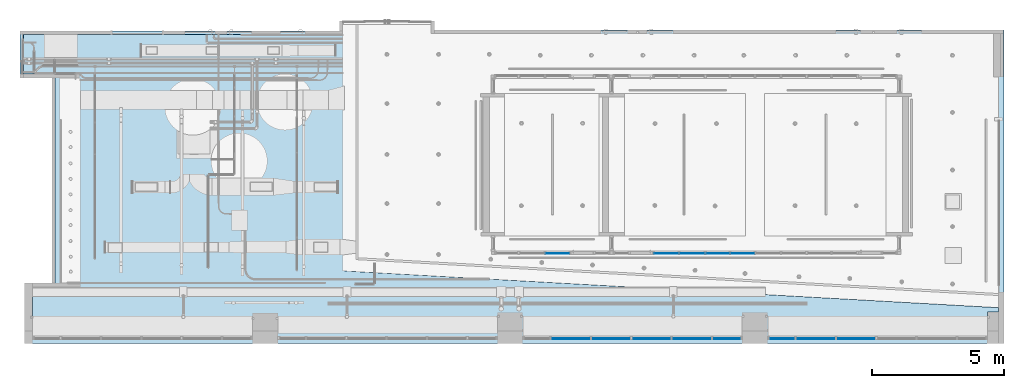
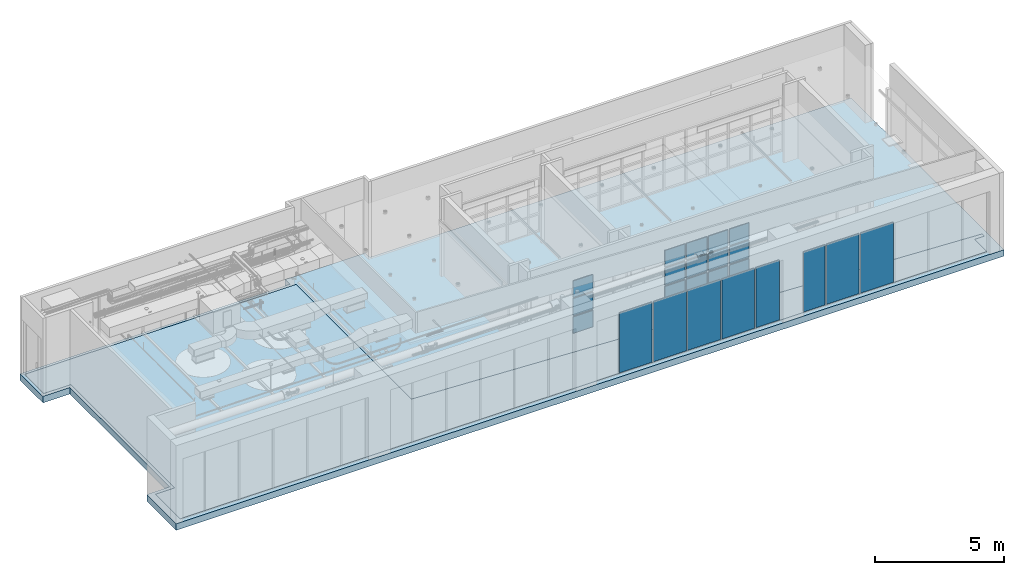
# One storey, part 12 of 108: 23 plates, 2 slabs, 4 elements without a shape of their own.
"""IFC4 building model written with IfcOpenShell, lengths in feet."""

from ifc_helpers import new_model, entity, si_unit, converted_unit, derived_unit, direction, frame, frame_2d, origin, place, context, subcontext, project, spatial, polyline, rectangle, outline, extrude, shape, source, transform, mapped, material, layer, layer_set, layer_usage, type_object, type_shapes, element, aggregate, save


model = new_model("IFC4")

# Units and contexts
model_context = context("Model", 3, precision=0.0001, world=origin(), true_north=direction((6.12303176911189e-17, 1.0)))
body_context = subcontext(model_context, "Body", "Model", "MODEL_VIEW")
footprint_context = subcontext(model_context, "FootPrint", "Model", "MODEL_VIEW")
ifc_project = project(units=[converted_unit("LENGTHUNIT", "FOOT", entity("IfcRatioMeasure", 0.3048), si_unit("LENGTHUNIT", "METRE"), dimensions=[1, 0, 0, 0, 0, 0, 0]), converted_unit("AREAUNIT", "SQUARE FOOT", entity("IfcRatioMeasure", 0.09290304), si_unit("AREAUNIT", "SQUARE_METRE"), dimensions=[2, 0, 0, 0, 0, 0, 0]), converted_unit("VOLUMEUNIT", "CUBIC FOOT", entity("IfcRatioMeasure", 0.028316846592), si_unit("VOLUMEUNIT", "CUBIC_METRE"), dimensions=[3, 0, 0, 0, 0, 0, 0]), converted_unit("PLANEANGLEUNIT", "DEGREE", entity("IfcRatioMeasure", 0.0174532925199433), si_unit("PLANEANGLEUNIT", "RADIAN"), dimensions=[0, 0, 0, 0, 0, 0, 0]), si_unit("MASSUNIT", "GRAM", prefix="KILO"), derived_unit("MASSDENSITYUNIT", [(si_unit("MASSUNIT", "GRAM", prefix="KILO"), 1), (si_unit("LENGTHUNIT", "METRE"), -3)]), si_unit("TIMEUNIT", "SECOND"), si_unit("FREQUENCYUNIT", "HERTZ"), si_unit("THERMODYNAMICTEMPERATUREUNIT", "DEGREE_CELSIUS"), derived_unit("THERMALTRANSMITTANCEUNIT", [(si_unit("MASSUNIT", "GRAM", prefix="KILO"), 1), (si_unit("THERMODYNAMICTEMPERATUREUNIT", "KELVIN"), -1), (si_unit("TIMEUNIT", "SECOND"), -3)]), derived_unit("VOLUMETRICFLOWRATEUNIT", [(si_unit("LENGTHUNIT", "METRE"), 3), (si_unit("TIMEUNIT", "SECOND"), -1)]), si_unit("ELECTRICCURRENTUNIT", "AMPERE"), si_unit("ELECTRICVOLTAGEUNIT", "VOLT"), si_unit("POWERUNIT", "WATT"), si_unit("FORCEUNIT", "NEWTON"), si_unit("ILLUMINANCEUNIT", "LUX"), si_unit("LUMINOUSFLUXUNIT", "LUMEN"), si_unit("LUMINOUSINTENSITYUNIT", "CANDELA"), derived_unit("USERDEFINED", [(si_unit("MASSUNIT", "GRAM", prefix="KILO"), -1), (si_unit("LENGTHUNIT", "METRE"), -2), (si_unit("TIMEUNIT", "SECOND"), 3), (si_unit("LUMINOUSFLUXUNIT", "LUMEN"), 1)]), derived_unit("LINEARVELOCITYUNIT", [(si_unit("LENGTHUNIT", "METRE"), 1), (si_unit("TIMEUNIT", "SECOND"), -1)]), si_unit("PRESSUREUNIT", "PASCAL"), derived_unit("USERDEFINED", [(si_unit("LENGTHUNIT", "METRE"), -2), (si_unit("MASSUNIT", "GRAM", prefix="KILO"), 1), (si_unit("TIMEUNIT", "SECOND"), -2)])], contexts=[model_context])

# Site, building, storey
site_placement = place(None, origin())
site = spatial("IfcSite", under=ifc_project, at=site_placement, Name="Default", CompositionType="ELEMENT")
building_placement = place(site_placement, origin())
building = spatial("IfcBuilding", under=site, at=building_placement, CompositionType="ELEMENT")
storey_placement = place(building_placement, frame((0.0, 0.0, 168.0)))
storey = spatial("IfcBuildingStorey", under=building, at=storey_placement, Name="Level 15", CompositionType="ELEMENT", Elevation=168.0)

# Slab
ifc_material_1 = material(Name="Default Floor", Category="Miscellaneous")
ifc_layer_1 = layer(ifc_material_1, 1.0, Name="Default Floor", Category="Miscellaneous")
ifc_layer_set_1 = layer_set([ifc_layer_1], Name="Floor:Generic - 12\"")
ifc_layer_usage_1 = layer_usage(ifc_layer_set_1, "AXIS3", "POSITIVE", 0.0)
slab_type_1 = type_object("IfcSlabType", Name="Floor:Generic - 12\"", PredefinedType="FLOOR", material=ifc_layer_set_1)
slab_1_placement = place(storey_placement, origin())
element("IfcSlab", 1, at=slab_1_placement, inside=storey, type_object=slab_type_1, material=ifc_layer_usage_1, Name="Floor:Generic - 12\"", ObjectType="Floor:Generic - 12\"", PredefinedType="FLOOR", context=body_context, shape_type="SweptSolid", body=[
    extrude(outline(polyline([(6.58045219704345, -36.2372904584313), (12.4033688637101, -36.2372904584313), (12.40336886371, 3.34604287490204), (13.6351867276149, 3.34604287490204), (13.635186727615, 15.1265912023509), (12.5191613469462, 15.1265912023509), (12.5191613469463, 85.7305039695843), (-26.3140079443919, 85.7305039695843), (-26.314007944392, -35.6747327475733), (-18.8241611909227, -35.6747327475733), (-18.8241611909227, -32.2911148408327), (6.58045219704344, -32.2911148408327), (6.58045219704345, -36.2372904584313)])), frame((-23.8508829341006, 3.21490557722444, 0.0), z_axis=(0.0, 0.0, -1.0), x_axis=(0.0, 1.0, 0.0)), (0.0, 0.0, 1.0), 1.0),
])

# Curtain wall, plate
curtain_wall_type_1 = type_object("IfcCurtainWallType", Name="Curtain Wall:Storefront", PredefinedType="NOTDEFINED")
curtain_wall_1_placement = place(storey_placement, frame((0.0, 0.0, -168.0)))
curtain_wall_1 = element("IfcCurtainWall", 2, at=curtain_wall_1_placement, inside=storey, type_object=curtain_wall_type_1, Name="Curtain Wall:Storefront", ObjectType="Curtain Wall:Storefront", PredefinedType="NOTDEFINED")
ifc_material_2 = material(Name="<Unnamed>")
ifc_layer_2 = layer(ifc_material_2, 0.0833333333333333, Name="<Unnamed>")
ifc_layer_set_2 = layer_set([ifc_layer_2], Name="System Panel:Glazed")
ifc_layer_usage_2 = layer_usage(ifc_layer_set_2, "AXIS3", "POSITIVE", 0.104166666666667)
plate_type_1 = type_object("IfcPlateType", Name="Glazed", PredefinedType="CURTAIN_PANEL", material=ifc_layer_set_2)
shared_shape_1 = source(origin(), body_context, "Body", "SweptSolid", [
    extrude(rectangle(XDim=0.0833333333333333, YDim=3.4375, at=frame_2d((-6.93889390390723e-18, 0.0), x_axis=(1.0, 0.0))), frame((1.71875, 0.0416666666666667, 0.0), z_axis=(0.0, 0.0, 1.0), x_axis=(0.0, 1.0, 0.0)), (0.0, 0.0, 1.0), 9.33210373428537),
])
cartesian_point_1 = entity("IfcCartesianPoint", [3.4375, 0.0])
shared_shape_2 = source(frame((-1.71875, 0.0625, 0.0)), footprint_context, "FootPrint", "Curve2D", [
    entity("IfcPolyline", [cartesian_point_1, entity("IfcCartesianPoint", [3.4375, 0.0833333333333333]), entity("IfcCartesianPoint", [0.0, 0.0833333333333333]), entity("IfcCartesianPoint", [0.0, 0.0]), cartesian_point_1]),
])
type_shapes(plate_type_1, [shared_shape_1, shared_shape_2])
plate_1_placement = place(curtain_wall_1_placement, frame((29.2229073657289, -22.4949357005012, 168.208333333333), z_axis=(0.0, 0.0, 1.0), x_axis=(-1.0, 0.0, 0.0)))
plate_1 = element("IfcPlate", 3, at=plate_1_placement, type_object=plate_type_1, material=ifc_layer_usage_2, Name="System Panel:Glazed", ObjectType="System Panel:Glazed", PredefinedType="CURTAIN_PANEL", shapes=[
    shape(body_context, "Body", "MappedRepresentation", [mapped(shared_shape_1, transform((0.0, 0.0, 0.0), scale=1.0))]),
    shape(body_context, "Body", "MappedRepresentation", [mapped(shared_shape_2, transform((0.0, 0.0, 0.0), scale=1.0))]),
])

# Curtain wall, plates
curtain_wall_2_placement = place(storey_placement, frame((0.0, 0.0, -168.0)))
curtain_wall_2 = element("IfcCurtainWall", 4, at=curtain_wall_2_placement, inside=storey, type_object=curtain_wall_type_1, Name="Curtain Wall:Storefront", ObjectType="Curtain Wall:Storefront", PredefinedType="NOTDEFINED")
ifc_layer_usage_3 = layer_usage(ifc_layer_set_2, "AXIS3", "POSITIVE", 0.104166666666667)
plate_type_2 = type_object("IfcPlateType", Name="Glazed", PredefinedType="CURTAIN_PANEL", material=ifc_layer_set_2)
shared_shape_3 = source(origin(), body_context, "Body", "SweptSolid", [
    extrude(rectangle(XDim=0.0833333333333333, YDim=4.79166666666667, at=frame_2d((-6.93889390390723e-18, 0.0), x_axis=(1.0, 0.0))), frame((2.39583333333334, 0.0416666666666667, 0.0), z_axis=(0.0, 0.0, 1.0), x_axis=(0.0, 1.0, 0.0)), (0.0, 0.0, 1.0), 9.33210373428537),
])
cartesian_point_2 = entity("IfcCartesianPoint", [4.79166666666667, 0.0])
shared_shape_4 = source(frame((-2.39583333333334, 0.0625, 0.0)), footprint_context, "FootPrint", "Curve2D", [
    entity("IfcPolyline", [cartesian_point_2, entity("IfcCartesianPoint", [4.79166666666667, 0.0833333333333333]), entity("IfcCartesianPoint", [0.0, 0.0833333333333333]), entity("IfcCartesianPoint", [0.0, 0.0]), cartesian_point_2]),
])
type_shapes(plate_type_2, [shared_shape_3, shared_shape_4])
plate_2_placement = place(curtain_wall_2_placement, frame((45.94681243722, -22.4949357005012, 168.208333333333), z_axis=(0.0, 0.0, 1.0), x_axis=(-1.0, 0.0, 0.0)))
plate_2 = element("IfcPlate", 5, at=plate_2_placement, type_object=plate_type_2, material=ifc_layer_usage_3, Name="System Panel:Glazed", ObjectType="System Panel:Glazed", PredefinedType="CURTAIN_PANEL", shapes=[
    shape(body_context, "Body", "MappedRepresentation", [mapped(shared_shape_3, transform((0.0, 0.0, 0.0), scale=1.0))]),
    shape(body_context, "Body", "MappedRepresentation", [mapped(shared_shape_4, transform((0.0, 0.0, 0.0), scale=1.0))]),
])
ifc_layer_usage_4 = layer_usage(ifc_layer_set_2, "AXIS3", "POSITIVE", 0.104166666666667)
plate_3_placement = place(curtain_wall_2_placement, frame((40.94681243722, -22.4949357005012, 168.208333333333), z_axis=(0.0, 0.0, 1.0), x_axis=(-1.0, 0.0, 0.0)))
plate_3 = element("IfcPlate", 6, at=plate_3_placement, type_object=plate_type_2, material=ifc_layer_usage_4, Name="System Panel:Glazed", ObjectType="System Panel:Glazed", PredefinedType="CURTAIN_PANEL", shapes=[
    shape(body_context, "Body", "MappedRepresentation", [mapped(shared_shape_3, transform((0.0, 0.0, 0.0), scale=1.0))]),
    shape(body_context, "Body", "MappedRepresentation", [mapped(shared_shape_4, transform((0.0, 0.0, 0.0), scale=1.0))]),
])

# Plate
ifc_layer_usage_5 = layer_usage(ifc_layer_set_2, "AXIS3", "POSITIVE", 0.104166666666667)
plate_4_placement = place(curtain_wall_1_placement, frame((25.5770740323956, -22.4949357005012, 168.208333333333), z_axis=(0.0, 0.0, 1.0), x_axis=(-1.0, 0.0, 0.0)))
plate_4 = element("IfcPlate", 7, at=plate_4_placement, type_object=plate_type_2, material=ifc_layer_usage_5, Name="System Panel:Glazed", ObjectType="System Panel:Glazed", PredefinedType="CURTAIN_PANEL", shapes=[
    shape(body_context, "Body", "MappedRepresentation", [mapped(shared_shape_3, transform((0.0, 0.0, 0.0), scale=1.0))]),
    shape(body_context, "Body", "MappedRepresentation", [mapped(shared_shape_4, transform((0.0, 0.0, 0.0), scale=1.0))]),
])

ifc_layer_usage_6 = layer_usage(ifc_layer_set_2, "AXIS3", "POSITIVE", 0.104166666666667)
plate_5_placement = place(curtain_wall_1_placement, frame((20.5770740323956, -22.4949357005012, 168.208333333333), z_axis=(0.0, 0.0, 1.0), x_axis=(-1.0, 0.0, 0.0)))
plate_5 = element("IfcPlate", 8, at=plate_5_placement, type_object=plate_type_2, material=ifc_layer_usage_6, Name="System Panel:Glazed", ObjectType="System Panel:Glazed", PredefinedType="CURTAIN_PANEL", shapes=[
    shape(body_context, "Body", "MappedRepresentation", [mapped(shared_shape_3, transform((0.0, 0.0, 0.0), scale=1.0))]),
    shape(body_context, "Body", "MappedRepresentation", [mapped(shared_shape_4, transform((0.0, 0.0, 0.0), scale=1.0))]),
])

ifc_layer_usage_7 = layer_usage(ifc_layer_set_2, "AXIS3", "POSITIVE", 0.104166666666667)
plate_6_placement = place(curtain_wall_1_placement, frame((15.5770740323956, -22.4949357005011, 168.208333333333), z_axis=(0.0, 0.0, 1.0), x_axis=(-1.0, 0.0, 0.0)))
plate_6 = element("IfcPlate", 9, at=plate_6_placement, type_object=plate_type_2, material=ifc_layer_usage_7, Name="System Panel:Glazed", ObjectType="System Panel:Glazed", PredefinedType="CURTAIN_PANEL", shapes=[
    shape(body_context, "Body", "MappedRepresentation", [mapped(shared_shape_3, transform((0.0, 0.0, 0.0), scale=1.0))]),
    shape(body_context, "Body", "MappedRepresentation", [mapped(shared_shape_4, transform((0.0, 0.0, 0.0), scale=1.0))]),
])

ifc_layer_usage_8 = layer_usage(ifc_layer_set_2, "AXIS3", "POSITIVE", 0.104166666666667)
plate_7_placement = place(curtain_wall_1_placement, frame((10.5770740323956, -22.4949357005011, 168.208333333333), z_axis=(0.0, 0.0, 1.0), x_axis=(-1.0, 0.0, 0.0)))
plate_7 = element("IfcPlate", 10, at=plate_7_placement, type_object=plate_type_2, material=ifc_layer_usage_8, Name="System Panel:Glazed", ObjectType="System Panel:Glazed", PredefinedType="CURTAIN_PANEL", shapes=[
    shape(body_context, "Body", "MappedRepresentation", [mapped(shared_shape_3, transform((0.0, 0.0, 0.0), scale=1.0))]),
    shape(body_context, "Body", "MappedRepresentation", [mapped(shared_shape_4, transform((0.0, 0.0, 0.0), scale=1.0))]),
])

aggregate(curtain_wall_1, [plate_1, plate_4, plate_5, plate_6, plate_7])

ifc_layer_usage_9 = layer_usage(ifc_layer_set_2, "AXIS3", "POSITIVE", 0.104166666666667)
plate_type_3 = type_object("IfcPlateType", Name="Glazed", PredefinedType="CURTAIN_PANEL", material=ifc_layer_set_2)
shared_shape_5 = source(origin(), body_context, "Body", "SweptSolid", [
    extrude(rectangle(XDim=0.0833333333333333, YDim=3.16660895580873, at=frame_2d((-6.93889390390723e-18, 0.0), x_axis=(1.0, 0.0))), frame((1.58330447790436, 0.0416666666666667, 0.0), z_axis=(0.0, 0.0, 1.0), x_axis=(0.0, 1.0, 0.0)), (0.0, 0.0, 1.0), 9.33210373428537),
])
cartesian_point_3 = entity("IfcCartesianPoint", [3.16660895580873, 0.0])
shared_shape_6 = source(frame((-1.58330447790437, 0.0625, 0.0)), footprint_context, "FootPrint", "Curve2D", [
    entity("IfcPolyline", [cartesian_point_3, entity("IfcCartesianPoint", [3.16660895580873, 0.0833333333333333]), entity("IfcCartesianPoint", [0.0, 0.0833333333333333]), entity("IfcCartesianPoint", [0.0, 0.0]), cartesian_point_3]),
])
type_shapes(plate_type_3, [shared_shape_5, shared_shape_6])
plate_8_placement = place(curtain_wall_2_placement, frame((35.94681243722, -22.4949357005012, 168.208333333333), z_axis=(0.0, 0.0, 1.0), x_axis=(-1.0, 0.0, 0.0)))
plate_8 = element("IfcPlate", 11, at=plate_8_placement, type_object=plate_type_3, material=ifc_layer_usage_9, Name="System Panel:Glazed", ObjectType="System Panel:Glazed", PredefinedType="CURTAIN_PANEL", shapes=[
    shape(body_context, "Body", "MappedRepresentation", [mapped(shared_shape_5, transform((0.0, 0.0, 0.0), scale=1.0))]),
    shape(body_context, "Body", "MappedRepresentation", [mapped(shared_shape_6, transform((0.0, 0.0, 0.0), scale=1.0))]),
])

aggregate(curtain_wall_2, [plate_2, plate_3, plate_8])

# Curtain wall, plates
curtain_wall_type_2 = type_object("IfcCurtainWallType", Name="Curtain Wall:Storefront 02", PredefinedType="NOTDEFINED")
curtain_wall_3_placement = place(storey_placement, frame((0.0, 0.0, -168.0)))
curtain_wall_3 = element("IfcCurtainWall", 12, at=curtain_wall_3_placement, inside=storey, type_object=curtain_wall_type_2, Name="Curtain Wall:Storefront 02", ObjectType="Curtain Wall:Storefront 02", PredefinedType="NOTDEFINED")
ifc_layer_usage_10 = layer_usage(ifc_layer_set_2, "AXIS3", "POSITIVE", 0.104166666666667)
plate_type_4 = type_object("IfcPlateType", Name="Glazed", PredefinedType="CURTAIN_PANEL", material=ifc_layer_set_2)
shared_shape_7 = source(origin(), body_context, "Body", "SweptSolid", [
    extrude(rectangle(XDim=0.0833333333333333, YDim=3.04166666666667, at=frame_2d((-6.93889390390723e-18, 0.0), x_axis=(1.0, 0.0))), frame((1.52083333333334, 0.0416666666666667, 0.0), z_axis=(0.0, 0.0, 1.0), x_axis=(0.0, 1.0, 0.0)), (0.0, 0.0, 1.0), 2.52844160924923),
])
cartesian_point_4 = entity("IfcCartesianPoint", [3.04166666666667, 0.0])
shared_shape_8 = source(frame((-1.52083333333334, 0.0625, 0.0)), footprint_context, "FootPrint", "Curve2D", [
    entity("IfcPolyline", [cartesian_point_4, entity("IfcCartesianPoint", [3.04166666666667, 0.0833333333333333]), entity("IfcCartesianPoint", [0.0, 0.0833333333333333]), entity("IfcCartesianPoint", [0.0, 0.0]), cartesian_point_4]),
])
type_shapes(plate_type_4, [shared_shape_7, shared_shape_8])
plate_9_placement = place(curtain_wall_3_placement, frame((24.734537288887, -11.9427703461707, 168.208333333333), z_axis=(0.0, 0.0, 1.0), x_axis=(-1.0, 0.0, 0.0)))
plate_9 = element("IfcPlate", 13, at=plate_9_placement, type_object=plate_type_4, material=ifc_layer_usage_10, Name="System Panel:Glazed", ObjectType="System Panel:Glazed", PredefinedType="CURTAIN_PANEL", shapes=[
    shape(body_context, "Body", "MappedRepresentation", [mapped(shared_shape_7, transform((0.0, 0.0, 0.0), scale=1.0))]),
    shape(body_context, "Body", "MappedRepresentation", [mapped(shared_shape_8, transform((0.0, 0.0, 0.0), scale=1.0))]),
])
ifc_layer_usage_11 = layer_usage(ifc_layer_set_2, "AXIS3", "POSITIVE", 0.104166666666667)
plate_10_placement = place(curtain_wall_3_placement, frame((24.734537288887, -11.9427703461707, 173.786049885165), z_axis=(0.0, 0.0, 1.0), x_axis=(-1.0, 0.0, 0.0)))
plate_10 = element("IfcPlate", 14, at=plate_10_placement, type_object=plate_type_4, material=ifc_layer_usage_11, Name="System Panel:Glazed", ObjectType="System Panel:Glazed", PredefinedType="CURTAIN_PANEL", shapes=[
    shape(body_context, "Body", "MappedRepresentation", [mapped(shared_shape_7, transform((0.0, 0.0, 0.0), scale=1.0))]),
    shape(body_context, "Body", "MappedRepresentation", [mapped(shared_shape_8, transform((0.0, 0.0, 0.0), scale=1.0))]),
])
ifc_layer_usage_12 = layer_usage(ifc_layer_set_2, "AXIS3", "POSITIVE", 0.104166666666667)
plate_type_5 = type_object("IfcPlateType", Name="Glazed", PredefinedType="CURTAIN_PANEL", material=ifc_layer_set_2)
shared_shape_9 = source(origin(), body_context, "Body", "SweptSolid", [
    extrude(rectangle(XDim=0.0833333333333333, YDim=2.875, at=frame_2d((-6.93889390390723e-18, 0.0), x_axis=(1.0, 0.0))), frame((1.4375, 0.0416666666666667, 0.0), z_axis=(0.0, 0.0, 1.0), x_axis=(0.0, 1.0, 0.0)), (0.0, 0.0, 1.0), 2.52844160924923),
])
cartesian_point_5 = entity("IfcCartesianPoint", [2.875, 0.0])
shared_shape_10 = source(frame((-1.4375, 0.0625, 0.0)), footprint_context, "FootPrint", "Curve2D", [
    entity("IfcPolyline", [cartesian_point_5, entity("IfcCartesianPoint", [2.875, 0.0833333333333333]), entity("IfcCartesianPoint", [0.0, 0.0833333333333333]), entity("IfcCartesianPoint", [0.0, 0.0]), cartesian_point_5]),
])
type_shapes(plate_type_5, [shared_shape_9, shared_shape_10])
plate_11_placement = place(curtain_wall_3_placement, frame((30.9012039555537, -11.9427703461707, 168.208333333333), z_axis=(0.0, 0.0, 1.0), x_axis=(-1.0, 0.0, 0.0)))
plate_11 = element("IfcPlate", 15, at=plate_11_placement, type_object=plate_type_5, material=ifc_layer_usage_12, Name="System Panel:Glazed", ObjectType="System Panel:Glazed", PredefinedType="CURTAIN_PANEL", shapes=[
    shape(body_context, "Body", "MappedRepresentation", [mapped(shared_shape_9, transform((0.0, 0.0, 0.0), scale=1.0))]),
    shape(body_context, "Body", "MappedRepresentation", [mapped(shared_shape_10, transform((0.0, 0.0, 0.0), scale=1.0))]),
])
ifc_layer_usage_13 = layer_usage(ifc_layer_set_2, "AXIS3", "POSITIVE", 0.104166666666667)
plate_12_placement = place(curtain_wall_3_placement, frame((27.8178706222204, -11.9427703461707, 168.208333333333), z_axis=(0.0, 0.0, 1.0), x_axis=(-1.0, 0.0, 0.0)))
plate_12 = element("IfcPlate", 16, at=plate_12_placement, type_object=plate_type_5, material=ifc_layer_usage_13, Name="System Panel:Glazed", ObjectType="System Panel:Glazed", PredefinedType="CURTAIN_PANEL", shapes=[
    shape(body_context, "Body", "MappedRepresentation", [mapped(shared_shape_9, transform((0.0, 0.0, 0.0), scale=1.0))]),
    shape(body_context, "Body", "MappedRepresentation", [mapped(shared_shape_10, transform((0.0, 0.0, 0.0), scale=1.0))]),
])
ifc_layer_usage_14 = layer_usage(ifc_layer_set_2, "AXIS3", "POSITIVE", 0.104166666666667)
plate_13_placement = place(curtain_wall_3_placement, frame((30.9012039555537, -11.9427703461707, 173.786049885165), z_axis=(0.0, 0.0, 1.0), x_axis=(-1.0, 0.0, 0.0)))
plate_13 = element("IfcPlate", 17, at=plate_13_placement, type_object=plate_type_5, material=ifc_layer_usage_14, Name="System Panel:Glazed", ObjectType="System Panel:Glazed", PredefinedType="CURTAIN_PANEL", shapes=[
    shape(body_context, "Body", "MappedRepresentation", [mapped(shared_shape_9, transform((0.0, 0.0, 0.0), scale=1.0))]),
    shape(body_context, "Body", "MappedRepresentation", [mapped(shared_shape_10, transform((0.0, 0.0, 0.0), scale=1.0))]),
])
ifc_layer_usage_15 = layer_usage(ifc_layer_set_2, "AXIS3", "POSITIVE", 0.104166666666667)
plate_14_placement = place(curtain_wall_3_placement, frame((27.8178706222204, -11.9427703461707, 173.786049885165), z_axis=(0.0, 0.0, 1.0), x_axis=(-1.0, 0.0, 0.0)))
plate_14 = element("IfcPlate", 18, at=plate_14_placement, type_object=plate_type_5, material=ifc_layer_usage_15, Name="System Panel:Glazed", ObjectType="System Panel:Glazed", PredefinedType="CURTAIN_PANEL", shapes=[
    shape(body_context, "Body", "MappedRepresentation", [mapped(shared_shape_9, transform((0.0, 0.0, 0.0), scale=1.0))]),
    shape(body_context, "Body", "MappedRepresentation", [mapped(shared_shape_10, transform((0.0, 0.0, 0.0), scale=1.0))]),
])
ifc_layer_usage_16 = layer_usage(ifc_layer_set_2, "AXIS3", "POSITIVE", 0.104166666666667)
plate_type_6 = type_object("IfcPlateType", Name="Glazed", PredefinedType="CURTAIN_PANEL", material=ifc_layer_set_2)
shared_shape_11 = source(origin(), body_context, "Body", "SweptSolid", [
    extrude(rectangle(XDim=0.0833333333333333, YDim=2.95833333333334, at=frame_2d((-6.93889390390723e-18, 0.0), x_axis=(1.0, 0.0))), frame((1.47916666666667, 0.0416666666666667, 0.0), z_axis=(0.0, 0.0, 1.0), x_axis=(0.0, 1.0, 0.0)), (0.0, 0.0, 1.0), 2.52844160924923),
])
cartesian_point_6 = entity("IfcCartesianPoint", [2.95833333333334, 0.0])
shared_shape_12 = source(frame((-1.47916666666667, 0.0625, 0.0)), footprint_context, "FootPrint", "Curve2D", [
    entity("IfcPolyline", [cartesian_point_6, entity("IfcCartesianPoint", [2.95833333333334, 0.0833333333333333]), entity("IfcCartesianPoint", [0.0, 0.0833333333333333]), entity("IfcCartesianPoint", [0.0, 0.0]), cartesian_point_6]),
])
type_shapes(plate_type_6, [shared_shape_11, shared_shape_12])
plate_15_placement = place(curtain_wall_3_placement, frame((21.484537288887, -11.9427703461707, 168.208333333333), z_axis=(0.0, 0.0, 1.0), x_axis=(-1.0, 0.0, 0.0)))
plate_15 = element("IfcPlate", 19, at=plate_15_placement, type_object=plate_type_6, material=ifc_layer_usage_16, Name="System Panel:Glazed", ObjectType="System Panel:Glazed", PredefinedType="CURTAIN_PANEL", shapes=[
    shape(body_context, "Body", "MappedRepresentation", [mapped(shared_shape_11, transform((0.0, 0.0, 0.0), scale=1.0))]),
    shape(body_context, "Body", "MappedRepresentation", [mapped(shared_shape_12, transform((0.0, 0.0, 0.0), scale=1.0))]),
])
ifc_layer_usage_17 = layer_usage(ifc_layer_set_2, "AXIS3", "POSITIVE", 0.104166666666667)
plate_16_placement = place(curtain_wall_3_placement, frame((21.484537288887, -11.9427703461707, 173.786049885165), z_axis=(0.0, 0.0, 1.0), x_axis=(-1.0, 0.0, 0.0)))
plate_16 = element("IfcPlate", 20, at=plate_16_placement, type_object=plate_type_6, material=ifc_layer_usage_17, Name="System Panel:Glazed", ObjectType="System Panel:Glazed", PredefinedType="CURTAIN_PANEL", shapes=[
    shape(body_context, "Body", "MappedRepresentation", [mapped(shared_shape_11, transform((0.0, 0.0, 0.0), scale=1.0))]),
    shape(body_context, "Body", "MappedRepresentation", [mapped(shared_shape_12, transform((0.0, 0.0, 0.0), scale=1.0))]),
])
ifc_layer_usage_18 = layer_usage(ifc_layer_set_2, "AXIS3", "POSITIVE", 0.104166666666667)
plate_type_7 = type_object("IfcPlateType", Name="Glazed", PredefinedType="CURTAIN_PANEL", material=ifc_layer_set_2)
shared_shape_13 = source(origin(), body_context, "Body", "SweptSolid", [
    extrude(rectangle(XDim=0.0833333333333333, YDim=3.04166666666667, at=frame_2d((-6.93889390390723e-18, 0.0), x_axis=(1.0, 0.0))), frame((1.52083333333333, 0.0416666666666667, 0.0), z_axis=(0.0, 0.0, 1.0), x_axis=(0.0, 1.0, 0.0)), (0.0, 0.0, 1.0), 2.63260827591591),
])
cartesian_point_7 = entity("IfcCartesianPoint", [3.04166666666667, 0.0])
shared_shape_14 = source(frame((-1.52083333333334, 0.0625, 0.0)), footprint_context, "FootPrint", "Curve2D", [
    entity("IfcPolyline", [cartesian_point_7, entity("IfcCartesianPoint", [3.04166666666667, 0.0833333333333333]), entity("IfcCartesianPoint", [0.0, 0.0833333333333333]), entity("IfcCartesianPoint", [0.0, 0.0]), cartesian_point_7]),
])
type_shapes(plate_type_7, [shared_shape_13, shared_shape_14])
plate_17_placement = place(curtain_wall_3_placement, frame((24.734537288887, -11.9427703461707, 170.945108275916), z_axis=(0.0, 0.0, 1.0), x_axis=(-1.0, 0.0, 0.0)))
plate_17 = element("IfcPlate", 21, at=plate_17_placement, type_object=plate_type_7, material=ifc_layer_usage_18, Name="System Panel:Glazed", ObjectType="System Panel:Glazed", PredefinedType="CURTAIN_PANEL", shapes=[
    shape(body_context, "Body", "MappedRepresentation", [mapped(shared_shape_13, transform((0.0, 0.0, 0.0), scale=1.0))]),
    shape(body_context, "Body", "MappedRepresentation", [mapped(shared_shape_14, transform((0.0, 0.0, 0.0), scale=1.0))]),
])
ifc_layer_usage_19 = layer_usage(ifc_layer_set_2, "AXIS3", "POSITIVE", 0.104166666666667)
plate_type_8 = type_object("IfcPlateType", Name="Glazed", PredefinedType="CURTAIN_PANEL", material=ifc_layer_set_2)
shared_shape_15 = source(origin(), body_context, "Body", "SweptSolid", [
    extrude(rectangle(XDim=0.0833333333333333, YDim=2.875, at=frame_2d((-6.93889390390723e-18, 0.0), x_axis=(1.0, 0.0))), frame((1.4375, 0.0416666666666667, 0.0), z_axis=(0.0, 0.0, 1.0), x_axis=(0.0, 1.0, 0.0)), (0.0, 0.0, 1.0), 2.63260827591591),
])
cartesian_point_8 = entity("IfcCartesianPoint", [2.875, 0.0])
shared_shape_16 = source(frame((-1.4375, 0.0624999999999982, 0.0)), footprint_context, "FootPrint", "Curve2D", [
    entity("IfcPolyline", [cartesian_point_8, entity("IfcCartesianPoint", [2.875, 0.0833333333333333]), entity("IfcCartesianPoint", [0.0, 0.0833333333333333]), entity("IfcCartesianPoint", [0.0, 0.0]), cartesian_point_8]),
])
type_shapes(plate_type_8, [shared_shape_15, shared_shape_16])
plate_18_placement = place(curtain_wall_3_placement, frame((30.9012039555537, -11.9427703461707, 170.945108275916), z_axis=(0.0, 0.0, 1.0), x_axis=(-1.0, 0.0, 0.0)))
plate_18 = element("IfcPlate", 22, at=plate_18_placement, type_object=plate_type_8, material=ifc_layer_usage_19, Name="System Panel:Glazed", ObjectType="System Panel:Glazed", PredefinedType="CURTAIN_PANEL", shapes=[
    shape(body_context, "Body", "MappedRepresentation", [mapped(shared_shape_15, transform((0.0, 0.0, 0.0), scale=1.0))]),
    shape(body_context, "Body", "MappedRepresentation", [mapped(shared_shape_16, transform((0.0, 0.0, 0.0), scale=1.0))]),
])
ifc_layer_usage_20 = layer_usage(ifc_layer_set_2, "AXIS3", "POSITIVE", 0.104166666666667)
plate_19_placement = place(curtain_wall_3_placement, frame((27.8178706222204, -11.9427703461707, 170.945108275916), z_axis=(0.0, 0.0, 1.0), x_axis=(-1.0, 0.0, 0.0)))
plate_19 = element("IfcPlate", 23, at=plate_19_placement, type_object=plate_type_8, material=ifc_layer_usage_20, Name="System Panel:Glazed", ObjectType="System Panel:Glazed", PredefinedType="CURTAIN_PANEL", shapes=[
    shape(body_context, "Body", "MappedRepresentation", [mapped(shared_shape_15, transform((0.0, 0.0, 0.0), scale=1.0))]),
    shape(body_context, "Body", "MappedRepresentation", [mapped(shared_shape_16, transform((0.0, 0.0, 0.0), scale=1.0))]),
])
ifc_layer_usage_21 = layer_usage(ifc_layer_set_2, "AXIS3", "POSITIVE", 0.104166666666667)
plate_type_9 = type_object("IfcPlateType", Name="Glazed", PredefinedType="CURTAIN_PANEL", material=ifc_layer_set_2)
shared_shape_17 = source(origin(), body_context, "Body", "SweptSolid", [
    extrude(rectangle(XDim=0.0833333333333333, YDim=2.95833333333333, at=frame_2d((-6.93889390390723e-18, 0.0), x_axis=(1.0, 0.0))), frame((1.47916666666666, 0.0416666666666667, 0.0), z_axis=(0.0, 0.0, 1.0), x_axis=(0.0, 1.0, 0.0)), (0.0, 0.0, 1.0), 2.63260827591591),
])
cartesian_point_9 = entity("IfcCartesianPoint", [2.95833333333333, 0.0])
shared_shape_18 = source(frame((-1.47916666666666, 0.0625, 0.0)), footprint_context, "FootPrint", "Curve2D", [
    entity("IfcPolyline", [cartesian_point_9, entity("IfcCartesianPoint", [2.95833333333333, 0.0833333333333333]), entity("IfcCartesianPoint", [0.0, 0.0833333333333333]), entity("IfcCartesianPoint", [0.0, 0.0]), cartesian_point_9]),
])
type_shapes(plate_type_9, [shared_shape_17, shared_shape_18])
plate_20_placement = place(curtain_wall_3_placement, frame((21.484537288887, -11.9427703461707, 170.945108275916), z_axis=(0.0, 0.0, 1.0), x_axis=(-1.0, 0.0, 0.0)))
plate_20 = element("IfcPlate", 24, at=plate_20_placement, type_object=plate_type_9, material=ifc_layer_usage_21, Name="System Panel:Glazed", ObjectType="System Panel:Glazed", PredefinedType="CURTAIN_PANEL", shapes=[
    shape(body_context, "Body", "MappedRepresentation", [mapped(shared_shape_17, transform((0.0, 0.0, 0.0), scale=1.0))]),
    shape(body_context, "Body", "MappedRepresentation", [mapped(shared_shape_18, transform((0.0, 0.0, 0.0), scale=1.0))]),
])
aggregate(curtain_wall_3, [plate_11, plate_12, plate_9, plate_15, plate_18, plate_19, plate_17, plate_20, plate_13, plate_14, plate_10, plate_16])

curtain_wall_4_placement = place(storey_placement, frame((0.0, 0.0, -168.0)))
curtain_wall_4 = element("IfcCurtainWall", 25, at=curtain_wall_4_placement, inside=storey, type_object=curtain_wall_type_2, Name="Curtain Wall:Storefront 02", ObjectType="Curtain Wall:Storefront 02", PredefinedType="NOTDEFINED")
ifc_layer_usage_22 = layer_usage(ifc_layer_set_2, "AXIS3", "POSITIVE", 0.104166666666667)
plate_type_10 = type_object("IfcPlateType", Name="Glazed", PredefinedType="CURTAIN_PANEL", material=ifc_layer_set_2)
shared_shape_19 = source(origin(), body_context, "Body", "SweptSolid", [
    extrude(rectangle(XDim=0.0833333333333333, YDim=2.90283401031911, at=frame_2d((-6.93889390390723e-18, 0.0), x_axis=(1.0, 0.0))), frame((1.45141700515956, 0.0416666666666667, 0.0), z_axis=(0.0, 0.0, 1.0), x_axis=(0.0, 1.0, 0.0)), (0.0, 0.0, 1.0), 2.52844160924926),
])
cartesian_point_10 = entity("IfcCartesianPoint", [2.90283401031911, 0.0])
shared_shape_20 = source(frame((-1.45141700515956, 0.0625, 0.0)), footprint_context, "FootPrint", "Curve2D", [
    entity("IfcPolyline", [cartesian_point_10, entity("IfcCartesianPoint", [2.90283401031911, 0.0833333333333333]), entity("IfcCartesianPoint", [0.0, 0.0833333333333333]), entity("IfcCartesianPoint", [0.0, 0.0]), cartesian_point_10]),
])
type_shapes(plate_type_10, [shared_shape_19, shared_shape_20])
plate_21_placement = place(curtain_wall_4_placement, frame((7.98453728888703, -11.9427703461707, 168.208333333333), z_axis=(0.0, 0.0, 1.0), x_axis=(-1.0, 0.0, 0.0)))
plate_21 = element("IfcPlate", 26, at=plate_21_placement, type_object=plate_type_10, material=ifc_layer_usage_22, Name="System Panel:Glazed", ObjectType="System Panel:Glazed", PredefinedType="CURTAIN_PANEL", shapes=[
    shape(body_context, "Body", "MappedRepresentation", [mapped(shared_shape_19, transform((0.0, 0.0, 0.0), scale=1.0))]),
    shape(body_context, "Body", "MappedRepresentation", [mapped(shared_shape_20, transform((0.0, 0.0, 0.0), scale=1.0))]),
])
ifc_layer_usage_23 = layer_usage(ifc_layer_set_2, "AXIS3", "POSITIVE", 0.104166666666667)
plate_22_placement = place(curtain_wall_4_placement, frame((7.98453728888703, -11.9427703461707, 173.786049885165), z_axis=(0.0, 0.0, 1.0), x_axis=(-1.0, 0.0, 0.0)))
plate_22 = element("IfcPlate", 27, at=plate_22_placement, type_object=plate_type_10, material=ifc_layer_usage_23, Name="System Panel:Glazed", ObjectType="System Panel:Glazed", PredefinedType="CURTAIN_PANEL", shapes=[
    shape(body_context, "Body", "MappedRepresentation", [mapped(shared_shape_19, transform((0.0, 0.0, 0.0), scale=1.0))]),
    shape(body_context, "Body", "MappedRepresentation", [mapped(shared_shape_20, transform((0.0, 0.0, 0.0), scale=1.0))]),
])
ifc_layer_usage_24 = layer_usage(ifc_layer_set_2, "AXIS3", "POSITIVE", 0.104166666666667)
plate_type_11 = type_object("IfcPlateType", Name="Glazed", PredefinedType="CURTAIN_PANEL", material=ifc_layer_set_2)
shared_shape_21 = source(origin(), body_context, "Body", "SweptSolid", [
    extrude(rectangle(XDim=0.0833333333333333, YDim=2.90283401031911, at=frame_2d((-6.93889390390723e-18, 0.0), x_axis=(1.0, 0.0))), frame((1.45141700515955, 0.0416666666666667, 0.0), z_axis=(0.0, 0.0, 1.0), x_axis=(0.0, 1.0, 0.0)), (0.0, 0.0, 1.0), 2.63260827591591),
])
cartesian_point_11 = entity("IfcCartesianPoint", [2.90283401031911, 0.0])
shared_shape_22 = source(frame((-1.45141700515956, 0.0625, 0.0)), footprint_context, "FootPrint", "Curve2D", [
    entity("IfcPolyline", [cartesian_point_11, entity("IfcCartesianPoint", [2.90283401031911, 0.0833333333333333]), entity("IfcCartesianPoint", [0.0, 0.0833333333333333]), entity("IfcCartesianPoint", [0.0, 0.0]), cartesian_point_11]),
])
type_shapes(plate_type_11, [shared_shape_21, shared_shape_22])
plate_23_placement = place(curtain_wall_4_placement, frame((7.98453728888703, -11.9427703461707, 170.945108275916), z_axis=(0.0, 0.0, 1.0), x_axis=(-1.0, 0.0, 0.0)))
plate_23 = element("IfcPlate", 28, at=plate_23_placement, type_object=plate_type_11, material=ifc_layer_usage_24, Name="System Panel:Glazed", ObjectType="System Panel:Glazed", PredefinedType="CURTAIN_PANEL", shapes=[
    shape(body_context, "Body", "MappedRepresentation", [mapped(shared_shape_21, transform((0.0, 0.0, 0.0), scale=1.0))]),
    shape(body_context, "Body", "MappedRepresentation", [mapped(shared_shape_22, transform((0.0, 0.0, 0.0), scale=1.0))]),
])
aggregate(curtain_wall_4, [plate_21, plate_23, plate_22])

# Slab
ifc_material_3 = material(Name="Oak Flooring", Category="Wood")
ifc_layer_3 = layer(ifc_material_3, 0.0416666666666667, Name="Oak Flooring", Category="Wood")
ifc_layer_set_3 = layer_set([ifc_layer_3], Name="Floor:I-Hardwood")
ifc_layer_usage_25 = layer_usage(ifc_layer_set_3, "AXIS3", "POSITIVE", 0.0)
slab_type_2 = type_object("IfcSlabType", Name="Floor:I-Hardwood", PredefinedType="FLOOR", material=ifc_layer_set_3)
slab_2_placement = place(storey_placement, origin())
element("IfcSlab", 29, at=slab_2_placement, inside=storey, type_object=slab_type_2, material=ifc_layer_usage_25, Name="Floor:I-Hardwood", ObjectType="Floor:I-Hardwood", PredefinedType="FLOOR", context=body_context, shape_type="SweptSolid", body=[
    extrude(outline(polyline([(18.4042064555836, -47.5483935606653), (23.3104564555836, -47.5483935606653), (23.3104564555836, -7.71506022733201), (-6.01310101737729, -7.71506022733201), (-10.5735870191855, 73.336067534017), (-11.1389916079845, 73.3360675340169), (-11.1389916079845, 71.9321067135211), (-14.2819203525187, 71.9321067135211), (-14.2819203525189, -46.402502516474), (-8.00040693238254, -46.402502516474), (-8.00040693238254, -43.6022179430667), (18.4042064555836, -43.6022179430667), (18.4042064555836, -47.5483935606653)])), frame((-12.1231131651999, -8.10884868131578, 0.0), z_axis=(0.0, 0.0, -1.0), x_axis=(0.0, 1.0, 0.0)), (0.0, 0.0, 1.0), 0.0416666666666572),
])

save(model, "model.ifc")
